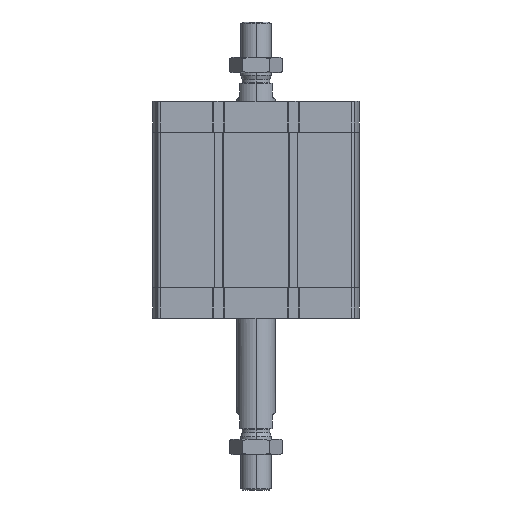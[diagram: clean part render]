
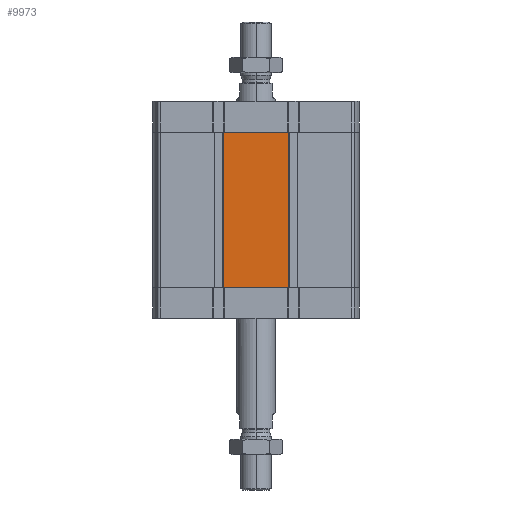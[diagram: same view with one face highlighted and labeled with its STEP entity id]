
A CAD part, left-side view. The second image highlights one B-rep face of the part: STEP entity #9973.
In plain terms, the highlighted planar face has unit normal (-1, 0, 0).
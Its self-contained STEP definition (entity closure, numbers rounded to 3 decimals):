
#314 = DIRECTION ( 'NONE',  ( 0., -1., 0. ) ) ;
#580 = CARTESIAN_POINT ( 'NONE',  ( -67., -21.3, -121. ) ) ;
#792 = CARTESIAN_POINT ( 'NONE',  ( -67., 67., -20. ) ) ;
#1114 = CARTESIAN_POINT ( 'NONE',  ( -67., 67., -20. ) ) ;
#1127 = VECTOR ( 'NONE', #12765, 1000. ) ;
#1578 = VECTOR ( 'NONE', #17189, 1000. ) ;
#1883 = EDGE_CURVE ( 'NONE', #12032, #4006, #6834, .T. ) ;
#1933 = EDGE_CURVE ( 'NONE', #4374, #11840, #5456, .T. ) ;
#2273 = PLANE ( 'NONE',  #16255 ) ;
#2460 = DIRECTION ( 'NONE',  ( 0., 0., 1. ) ) ;
#2519 = DIRECTION ( 'NONE',  ( 0., -1., 0. ) ) ;
#2656 = EDGE_CURVE ( 'NONE', #11840, #17218, #6882, .T. ) ;
#2962 = VERTEX_POINT ( 'NONE', #13514 ) ;
#3015 = ORIENTED_EDGE ( 'NONE', *, *, #15083, .F. ) ;
#3869 = CARTESIAN_POINT ( 'NONE',  ( -67., 21.3, -20. ) ) ;
#4006 = VERTEX_POINT ( 'NONE', #13126 ) ;
#4206 = ORIENTED_EDGE ( 'NONE', *, *, #14819, .F. ) ;
#4374 = VERTEX_POINT ( 'NONE', #15797 ) ;
#4746 = EDGE_LOOP ( 'NONE', ( #3015, #19450, #16176, #7152, #17602, #5237, #11854, #4206 ) ) ;
#5095 = EDGE_CURVE ( 'NONE', #4006, #17218, #17142, .T. ) ;
#5237 = ORIENTED_EDGE ( 'NONE', *, *, #5095, .F. ) ;
#5456 = LINE ( 'NONE', #11277, #1127 ) ;
#5957 = CARTESIAN_POINT ( 'NONE',  ( -67., 67., -121. ) ) ;
#6029 = CARTESIAN_POINT ( 'NONE',  ( -67., 20.687, -20. ) ) ;
#6097 = EDGE_CURVE ( 'NONE', #2962, #4374, #16843, .T. ) ;
#6834 = LINE ( 'NONE', #3869, #10701 ) ;
#6882 = LINE ( 'NONE', #15601, #1578 ) ;
#6979 = EDGE_CURVE ( 'NONE', #13570, #2962, #14964, .T. ) ;
#7031 = DIRECTION ( 'NONE',  ( 0., -1., 0. ) ) ;
#7152 = ORIENTED_EDGE ( 'NONE', *, *, #1933, .T. ) ;
#7154 = LINE ( 'NONE', #1114, #13566 ) ;
#7837 = CARTESIAN_POINT ( 'NONE',  ( -67., 21.3, -121. ) ) ;
#9930 = CARTESIAN_POINT ( 'NONE',  ( -67., -21.3, -20. ) ) ;
#9973 = ADVANCED_FACE ( 'NONE', ( #10333 ), #2273, .T. ) ;
#10301 = VECTOR ( 'NONE', #10406, 1000. ) ;
#10333 = FACE_OUTER_BOUND ( 'NONE', #4746, .T. ) ;
#10406 = DIRECTION ( 'NONE',  ( 0., -1., 0. ) ) ;
#10701 = VECTOR ( 'NONE', #7031, 1000. ) ;
#11277 = CARTESIAN_POINT ( 'NONE',  ( -67., 67., -121. ) ) ;
#11293 = DIRECTION ( 'NONE',  ( 0., 0., 1. ) ) ;
#11364 = DIRECTION ( 'NONE',  ( -1., 0., 0. ) ) ;
#11840 = VERTEX_POINT ( 'NONE', #580 ) ;
#11852 = VERTEX_POINT ( 'NONE', #12373 ) ;
#11854 = ORIENTED_EDGE ( 'NONE', *, *, #1883, .F. ) ;
#12032 = VERTEX_POINT ( 'NONE', #6029 ) ;
#12373 = CARTESIAN_POINT ( 'NONE',  ( -67., 21.3, -20. ) ) ;
#12765 = DIRECTION ( 'NONE',  ( 0., -1., 0. ) ) ;
#12864 = DIRECTION ( 'NONE',  ( 0., -1., 0. ) ) ;
#13126 = CARTESIAN_POINT ( 'NONE',  ( -67., -20.687, -20. ) ) ;
#13514 = CARTESIAN_POINT ( 'NONE',  ( -67., 20.687, -121. ) ) ;
#13566 = VECTOR ( 'NONE', #2519, 1000. ) ;
#13570 = VERTEX_POINT ( 'NONE', #17871 ) ;
#14448 = VECTOR ( 'NONE', #314, 1000. ) ;
#14819 = EDGE_CURVE ( 'NONE', #11852, #12032, #7154, .T. ) ;
#14964 = LINE ( 'NONE', #5957, #10301 ) ;
#15083 = EDGE_CURVE ( 'NONE', #13570, #11852, #18733, .T. ) ;
#15181 = VECTOR ( 'NONE', #11293, 1000. ) ;
#15601 = CARTESIAN_POINT ( 'NONE',  ( -67., -21.3, -121. ) ) ;
#15797 = CARTESIAN_POINT ( 'NONE',  ( -67., -20.687, -121. ) ) ;
#15817 = VECTOR ( 'NONE', #12864, 1000. ) ;
#16176 = ORIENTED_EDGE ( 'NONE', *, *, #6097, .T. ) ;
#16255 = AXIS2_PLACEMENT_3D ( 'NONE', #18798, #11364, #2460 ) ;
#16843 = LINE ( 'NONE', #7837, #14448 ) ;
#17142 = LINE ( 'NONE', #792, #15817 ) ;
#17189 = DIRECTION ( 'NONE',  ( 0., 0., 1. ) ) ;
#17218 = VERTEX_POINT ( 'NONE', #9930 ) ;
#17345 = CARTESIAN_POINT ( 'NONE',  ( -67., 21.3, -121. ) ) ;
#17602 = ORIENTED_EDGE ( 'NONE', *, *, #2656, .T. ) ;
#17871 = CARTESIAN_POINT ( 'NONE',  ( -67., 21.3, -121. ) ) ;
#18733 = LINE ( 'NONE', #17345, #15181 ) ;
#18798 = CARTESIAN_POINT ( 'NONE',  ( -67., 67., -121. ) ) ;
#19450 = ORIENTED_EDGE ( 'NONE', *, *, #6979, .T. ) ;
